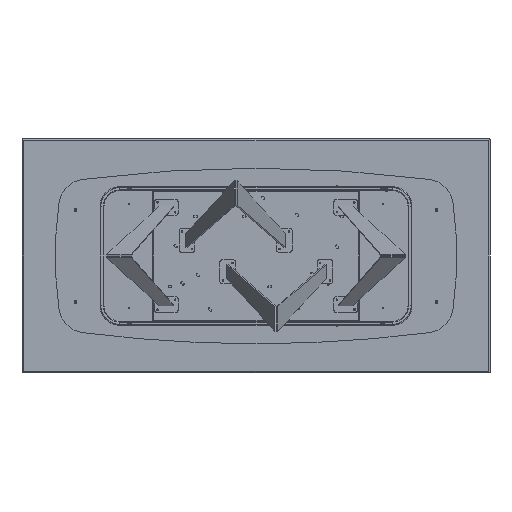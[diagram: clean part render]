
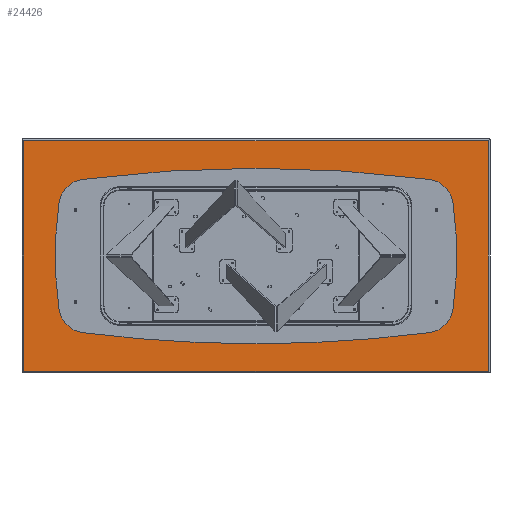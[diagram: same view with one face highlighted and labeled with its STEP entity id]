
A CAD part, front view. The second image highlights one B-rep face of the part: STEP entity #24426.
In plain terms, the highlighted planar face has unit normal (0, -1, 0).
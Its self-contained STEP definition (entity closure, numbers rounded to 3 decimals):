
#36 = EDGE_CURVE ( 'NONE', #7617, #13864, #18529, .T. ) ;
#945 = VECTOR ( 'NONE', #3225, 1000. ) ;
#1127 = CIRCLE ( 'NONE', #14210, 2.5 ) ;
#1220 = VERTEX_POINT ( 'NONE', #10987 ) ;
#1265 = DIRECTION ( 'NONE',  ( 0., -1., 0. ) ) ;
#1394 = PLANE ( 'NONE',  #17400 ) ;
#1760 = ORIENTED_EDGE ( 'NONE', *, *, #4460, .F. ) ;
#1794 = EDGE_CURVE ( 'NONE', #19993, #21052, #6031, .T. ) ;
#1980 = EDGE_LOOP ( 'NONE', ( #12704, #12240 ) ) ;
#2138 = CARTESIAN_POINT ( 'NONE',  ( -1190., 0., 0. ) ) ;
#2213 = EDGE_CURVE ( 'NONE', #7692, #21263, #23502, .T. ) ;
#2337 = VERTEX_POINT ( 'NONE', #20038 ) ;
#2483 = AXIS2_PLACEMENT_3D ( 'NONE', #8544, #2692, #7032 ) ;
#2692 = DIRECTION ( 'NONE',  ( 0., -1., 0. ) ) ;
#2914 = AXIS2_PLACEMENT_3D ( 'NONE', #18272, #1265, #14442 ) ;
#3010 = DIRECTION ( 'NONE',  ( 0., 1., 0. ) ) ;
#3125 = DIRECTION ( 'NONE',  ( 0., -1., 0. ) ) ;
#3188 = DIRECTION ( 'NONE',  ( 0., 0., -1. ) ) ;
#3213 = EDGE_CURVE ( 'NONE', #21263, #7692, #6844, .T. ) ;
#3225 = DIRECTION ( 'NONE',  ( -1., 0., 0. ) ) ;
#3293 = ORIENTED_EDGE ( 'NONE', *, *, #1794, .F. ) ;
#4157 = EDGE_CURVE ( 'NONE', #23905, #2337, #5679, .T. ) ;
#4282 = CARTESIAN_POINT ( 'NONE',  ( 925., 0., 235. ) ) ;
#4408 = DIRECTION ( 'NONE',  ( 0., -1., 0. ) ) ;
#4460 = EDGE_CURVE ( 'NONE', #10991, #1220, #19973, .T. ) ;
#4766 = DIRECTION ( 'NONE',  ( 0., 0., 1. ) ) ;
#5365 = FACE_BOUND ( 'NONE', #1980, .T. ) ;
#5374 = DIRECTION ( 'NONE',  ( 1., 0., 0. ) ) ;
#5642 = AXIS2_PLACEMENT_3D ( 'NONE', #8546, #12510, #3188 ) ;
#5679 = CIRCLE ( 'NONE', #2914, 2.5 ) ;
#5968 = DIRECTION ( 'NONE',  ( 0., 0., -1. ) ) ;
#6031 = CIRCLE ( 'NONE', #2483, 2.5 ) ;
#6084 = CARTESIAN_POINT ( 'NONE',  ( -925., 0., -235. ) ) ;
#6541 = ORIENTED_EDGE ( 'NONE', *, *, #10777, .F. ) ;
#6677 = ORIENTED_EDGE ( 'NONE', *, *, #10935, .F. ) ;
#6844 = CIRCLE ( 'NONE', #5642, 2.5 ) ;
#7032 = DIRECTION ( 'NONE',  ( 0., 0., -1. ) ) ;
#7617 = VERTEX_POINT ( 'NONE', #22804 ) ;
#7692 = VERTEX_POINT ( 'NONE', #22925 ) ;
#8007 = DIRECTION ( 'NONE',  ( 0., 0., -1. ) ) ;
#8360 = CIRCLE ( 'NONE', #17058, 2.5 ) ;
#8423 = AXIS2_PLACEMENT_3D ( 'NONE', #4282, #4408, #19427 ) ;
#8512 = DIRECTION ( 'NONE',  ( 0., 0., -1. ) ) ;
#8544 = CARTESIAN_POINT ( 'NONE',  ( 925., 0., -235. ) ) ;
#8546 = CARTESIAN_POINT ( 'NONE',  ( 925., 0., 235. ) ) ;
#8735 = FACE_OUTER_BOUND ( 'NONE', #17502, .T. ) ;
#8982 = CARTESIAN_POINT ( 'NONE',  ( 0., 0., 0. ) ) ;
#9270 = EDGE_LOOP ( 'NONE', ( #10964, #11482 ) ) ;
#10134 = CARTESIAN_POINT ( 'NONE',  ( 925., 0., 237.5 ) ) ;
#10608 = LINE ( 'NONE', #12589, #20277 ) ;
#10777 = EDGE_CURVE ( 'NONE', #21052, #19993, #1127, .T. ) ;
#10935 = EDGE_CURVE ( 'NONE', #1220, #10991, #15402, .T. ) ;
#10964 = ORIENTED_EDGE ( 'NONE', *, *, #2213, .F. ) ;
#10987 = CARTESIAN_POINT ( 'NONE',  ( -925., 0., -237.5 ) ) ;
#10991 = VERTEX_POINT ( 'NONE', #19912 ) ;
#11026 = ORIENTED_EDGE ( 'NONE', *, *, #15894, .T. ) ;
#11482 = ORIENTED_EDGE ( 'NONE', *, *, #3213, .F. ) ;
#11491 = DIRECTION ( 'NONE',  ( 0., -1., 0. ) ) ;
#12066 = AXIS2_PLACEMENT_3D ( 'NONE', #6084, #13418, #19124 ) ;
#12192 = LINE ( 'NONE', #2138, #19408 ) ;
#12240 = ORIENTED_EDGE ( 'NONE', *, *, #12853, .F. ) ;
#12356 = CARTESIAN_POINT ( 'NONE',  ( 925., 0., -232.5 ) ) ;
#12510 = DIRECTION ( 'NONE',  ( 0., -1., 0. ) ) ;
#12589 = CARTESIAN_POINT ( 'NONE',  ( 1190., 0., 0. ) ) ;
#12704 = ORIENTED_EDGE ( 'NONE', *, *, #4157, .F. ) ;
#12796 = LINE ( 'NONE', #18609, #945 ) ;
#12853 = EDGE_CURVE ( 'NONE', #2337, #23905, #8360, .T. ) ;
#12927 = VERTEX_POINT ( 'NONE', #13984 ) ;
#13245 = CARTESIAN_POINT ( 'NONE',  ( 925., 0., -237.5 ) ) ;
#13418 = DIRECTION ( 'NONE',  ( 0., -1., 0. ) ) ;
#13610 = CARTESIAN_POINT ( 'NONE',  ( -925., 0., 235. ) ) ;
#13864 = VERTEX_POINT ( 'NONE', #15629 ) ;
#13984 = CARTESIAN_POINT ( 'NONE',  ( -1190., 0., 590. ) ) ;
#14210 = AXIS2_PLACEMENT_3D ( 'NONE', #17559, #11491, #15220 ) ;
#14288 = ORIENTED_EDGE ( 'NONE', *, *, #36, .T. ) ;
#14442 = DIRECTION ( 'NONE',  ( 0., 0., -1. ) ) ;
#14560 = DIRECTION ( 'NONE',  ( 0., 0., 1. ) ) ;
#15220 = DIRECTION ( 'NONE',  ( 0., 0., -1. ) ) ;
#15384 = ORIENTED_EDGE ( 'NONE', *, *, #18786, .T. ) ;
#15402 = CIRCLE ( 'NONE', #20174, 2.5 ) ;
#15629 = CARTESIAN_POINT ( 'NONE',  ( 1190., 0., -590. ) ) ;
#15894 = EDGE_CURVE ( 'NONE', #12927, #7617, #12192, .T. ) ;
#16424 = FACE_BOUND ( 'NONE', #9270, .T. ) ;
#16655 = CARTESIAN_POINT ( 'NONE',  ( 0., 0., -590. ) ) ;
#16714 = VERTEX_POINT ( 'NONE', #20466 ) ;
#17058 = AXIS2_PLACEMENT_3D ( 'NONE', #13610, #3125, #8007 ) ;
#17400 = AXIS2_PLACEMENT_3D ( 'NONE', #8982, #3010, #14560 ) ;
#17502 = EDGE_LOOP ( 'NONE', ( #11026, #14288, #15384, #20539 ) ) ;
#17559 = CARTESIAN_POINT ( 'NONE',  ( 925., 0., -235. ) ) ;
#17796 = DIRECTION ( 'NONE',  ( 0., -1., 0. ) ) ;
#18272 = CARTESIAN_POINT ( 'NONE',  ( -925., 0., 235. ) ) ;
#18405 = FACE_BOUND ( 'NONE', #23056, .T. ) ;
#18529 = LINE ( 'NONE', #16655, #19005 ) ;
#18609 = CARTESIAN_POINT ( 'NONE',  ( 0., 0., 590. ) ) ;
#18786 = EDGE_CURVE ( 'NONE', #13864, #16714, #10608, .T. ) ;
#19005 = VECTOR ( 'NONE', #5374, 1000. ) ;
#19124 = DIRECTION ( 'NONE',  ( 0., 0., -1. ) ) ;
#19408 = VECTOR ( 'NONE', #5968, 1000. ) ;
#19427 = DIRECTION ( 'NONE',  ( 0., 0., -1. ) ) ;
#19912 = CARTESIAN_POINT ( 'NONE',  ( -925., 0., -232.5 ) ) ;
#19973 = CIRCLE ( 'NONE', #12066, 2.5 ) ;
#19993 = VERTEX_POINT ( 'NONE', #12356 ) ;
#20038 = CARTESIAN_POINT ( 'NONE',  ( -925., 0., 237.5 ) ) ;
#20133 = FACE_BOUND ( 'NONE', #24419, .T. ) ;
#20156 = CARTESIAN_POINT ( 'NONE',  ( -925., 0., -235. ) ) ;
#20174 = AXIS2_PLACEMENT_3D ( 'NONE', #20156, #17796, #8512 ) ;
#20277 = VECTOR ( 'NONE', #4766, 1000. ) ;
#20466 = CARTESIAN_POINT ( 'NONE',  ( 1190., 0., 590. ) ) ;
#20539 = ORIENTED_EDGE ( 'NONE', *, *, #22426, .T. ) ;
#21052 = VERTEX_POINT ( 'NONE', #13245 ) ;
#21263 = VERTEX_POINT ( 'NONE', #10134 ) ;
#21575 = CARTESIAN_POINT ( 'NONE',  ( -925., 0., 232.5 ) ) ;
#22426 = EDGE_CURVE ( 'NONE', #16714, #12927, #12796, .T. ) ;
#22804 = CARTESIAN_POINT ( 'NONE',  ( -1190., 0., -590. ) ) ;
#22925 = CARTESIAN_POINT ( 'NONE',  ( 925., 0., 232.5 ) ) ;
#23056 = EDGE_LOOP ( 'NONE', ( #6541, #3293 ) ) ;
#23502 = CIRCLE ( 'NONE', #8423, 2.5 ) ;
#23905 = VERTEX_POINT ( 'NONE', #21575 ) ;
#24419 = EDGE_LOOP ( 'NONE', ( #6677, #1760 ) ) ;
#24426 = ADVANCED_FACE ( 'NONE', ( #18405, #20133, #5365, #16424, #8735 ), #1394, .F. ) ;
